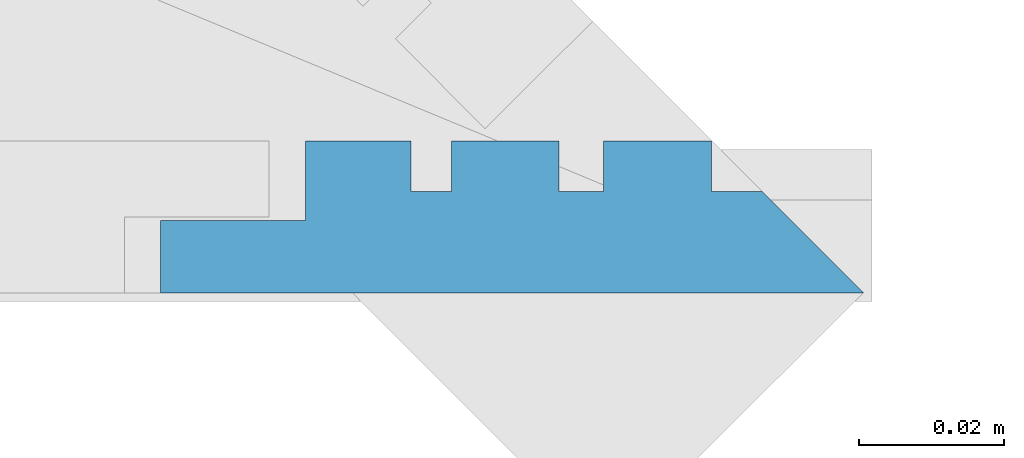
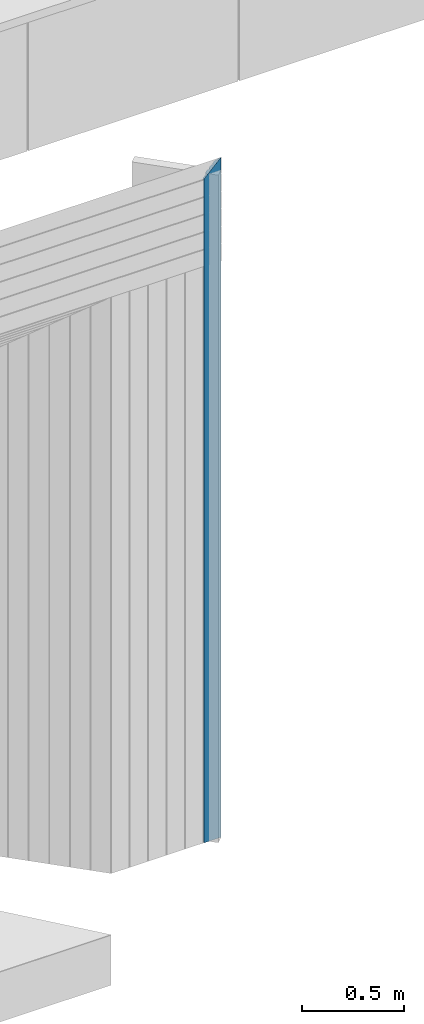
# One storey, part 106 of 418: 1 building element part, 1 element without a shape of its own.
"""IFC2X3 building model written with IfcOpenShell, lengths in millimetres."""

from ifc_helpers import new_model, entity, si_unit, converted_unit, derived_unit, money_unit, direction, frame, origin_with_axes, place, context, subcontext, project, spatial, polyline, outline, extrude, boolean, faceted_brep, material, type_object, element, aggregate, save


model = new_model("IFC2X3")

# Units and contexts
model_context = context("Model", 3, precision=0.01, world=origin_with_axes(), true_north=direction((0.0, 1.0)))
body_context = subcontext(model_context, "Body", "Model", "MODEL_VIEW")
ifc_project = project(units=[si_unit("LENGTHUNIT", "METRE", prefix="MILLI"), si_unit("AREAUNIT", "SQUARE_METRE"), si_unit("VOLUMEUNIT", "CUBIC_METRE"), converted_unit("PLANEANGLEUNIT", "DEGREE", entity("IfcPlaneAngleMeasure", 0.0174532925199), si_unit("PLANEANGLEUNIT", "RADIAN"), dimensions=[0, 0, 0, 0, 0, 0, 0]), si_unit("SOLIDANGLEUNIT", "STERADIAN"), money_unit("EUR"), converted_unit("TIMEUNIT", "Year", entity("IfcTimeMeasure", 31556926.0), si_unit("TIMEUNIT", "SECOND"), dimensions=[0, 0, 1, 0, 0, 0, 0]), si_unit("MASSUNIT", "GRAM", prefix="KILO"), si_unit("THERMODYNAMICTEMPERATUREUNIT", "DEGREE_CELSIUS"), si_unit("LUMINOUSINTENSITYUNIT", "LUMEN"), si_unit("ENERGYUNIT", "JOULE", prefix="MEGA"), derived_unit("THERMALCONDUCTANCEUNIT", [(si_unit("POWERUNIT", "WATT"), 1), (si_unit("LENGTHUNIT", "METRE"), -1), (si_unit("THERMODYNAMICTEMPERATUREUNIT", "KELVIN"), -1)]), derived_unit("SPECIFICHEATCAPACITYUNIT", [(si_unit("ENERGYUNIT", "JOULE"), 1), (si_unit("MASSUNIT", "GRAM", prefix="KILO"), -1), (si_unit("THERMODYNAMICTEMPERATUREUNIT", "KELVIN"), -1)]), derived_unit("MASSDENSITYUNIT", [(si_unit("MASSUNIT", "GRAM", prefix="KILO"), 1), (si_unit("VOLUMEUNIT", "CUBIC_METRE"), -1)])], contexts=[model_context])

# Site, building, storey
site_placement = place(None, origin_with_axes())
site = spatial("IfcSite", under=ifc_project, at=site_placement, Name="Paldiski mnt 245/1, Tallinn, Harjumaa", CompositionType="COMPLEX")
building_placement = place(site_placement, origin_with_axes())
building = spatial("IfcBuilding", under=site, at=building_placement, Name="RKAS Hoone üldnimetus (kasutust iseloomustav) -> IFC Project Manager -> SOLIBRI", CompositionType="ELEMENT")
storey_placement = place(building_placement, origin_with_axes())
storey = spatial("IfcBuildingStorey", under=building, at=storey_placement, Name="Esimene korrus", CompositionType="ELEMENT", Elevation=0.0)

# Proxy, building element part
building_element_proxy_type = type_object("IfcBuildingElementProxyType", Name="Laudis esiprofiil_01 21 x 622", PredefinedType="NOTDEFINED")
proxy_placement = place(storey_placement, frame((-37270.373884, -18705.5141429, 0.0), z_axis=(0.0, 0.0, 1.0), x_axis=(0.0, -1.0, 0.0)))
proxy = element("IfcBuildingElementProxy", 1, at=proxy_placement, inside=storey, type_object=building_element_proxy_type, Name="Varikatus")
ifc_material = material(Name="Laudis 5072 Honka 45 horisontaalne raastas")
building_element_part_placement = place(proxy_placement, origin_with_axes())
building_element_part = element("IfcBuildingElementPart", 2, at=building_element_part_placement, material=ifc_material, Name="Laudis 5072 Honka 45 horisontaalne raastas", context=body_context, shape_type="CSG", body=[
    boolean("DIFFERENCE", boolean("DIFFERENCE", boolean("DIFFERENCE", boolean("DIFFERENCE", boolean("DIFFERENCE", boolean("DIFFERENCE", extrude(outline(polyline([(-21.0000013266, -55.7545733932), (-14.0000008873, -55.7545748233), (-14.0000008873, -61.3952431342), (-21.0000013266, -61.3952431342), (-21.0000013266, -75.9714304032), (-10.0000014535, -75.9714304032), (-10.0000000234, -95.9714304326), (-1.43879088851e-06, -95.9714304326), (8.28322394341e-09, 1.13997680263), (-14.0000008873, -12.860024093), (-14.0000008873, -19.8600231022), (-20.9999998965, -19.8600231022), (-20.9999998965, -34.7991407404), (-14.0000008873, -34.7991393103), (-14.0000008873, -40.9260801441), (-20.9999998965, -40.9260801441), (-21.0000013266, -55.7545733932)])), origin_with_axes(), (0.0, 0.0, 1.0), 4086.15997799), faceted_brep([(-10.5000005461, -395.971429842, 3689.02857134), (-20.9999998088, -395.971430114, 3689.02857107), (-20.9999998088, -395.971430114, 4086.15997799), (-10.5000005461, -395.971429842, 4086.15997799), (-21.0000010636, -433.497524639, 3651.50247655), (-10.5000010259, -415.971430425, 3669.02857076), (3.20348192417e-08, -415.971430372, 3669.02857081), (-7.63172636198e-07, -515.971430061, 3569.02857112), (-10.0000002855, -515.971430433, 3569.02857075), (-10.000001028, -495.971430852, 3589.02857033), (-21.0000007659, -495.971429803, 3589.02857138), (-21.0000010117, -481.395242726, 3603.60475846), (-14.0000015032, -481.395242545, 3603.60475864), (-14.0000008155, -475.754574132, 3609.24542705), (-21.0000013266, -475.754573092, 3609.24542809), (-21.0000002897, -460.926080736, 3624.07392045), (-14.0000007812, -460.926080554, 3624.07392063), (-14.0000002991, -454.799139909, 3630.20086128), (-20.9999998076, -454.79914009, 3630.20086109), (-20.99999981, -439.860022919, 3645.13997827), (-14.0000003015, -439.860022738, 3645.13997845), (-14.0000005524, -433.497525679, 3651.50247551), (-21.0000010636, -433.497524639, 4086.15997799), (-7.63172636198e-07, -515.971430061, 4086.15997799), (3.20348192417e-08, -415.971430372, 4086.15997799), (-10.5000010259, -415.971430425, 4086.15997799), (-14.0000005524, -433.497525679, 4086.15997799), (-14.0000003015, -439.860022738, 4086.15997799), (-20.99999981, -439.860022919, 4086.15997799), (-20.9999998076, -454.79914009, 4086.15997799), (-14.0000002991, -454.799139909, 4086.15997799), (-14.0000007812, -460.926080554, 4086.15997799), (-21.0000002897, -460.926080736, 4086.15997799), (-21.0000013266, -475.754573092, 4086.15997799), (-14.0000008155, -475.754574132, 4086.15997799), (-14.0000015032, -481.395242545, 4086.15997799), (-21.0000010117, -481.395242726, 4086.15997799), (-21.0000007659, -495.971429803, 4086.15997799), (-10.000001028, -495.971430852, 4086.15997799), (-10.0000002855, -515.971430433, 4086.15997799)], [[[0, 1, 2, 3]], [[4, 1, 0, 5, 6, 7, 8, 9, 10, 11, 12, 13, 14, 15, 16, 17, 18, 19, 20, 21]], [[1, 4, 22, 2]], [[23, 24, 25, 3, 2, 22, 26, 27, 28, 29, 30, 31, 32, 33, 34, 35, 36, 37, 38, 39]], [[5, 0, 3, 25]], [[6, 5, 25, 24]], [[7, 6, 24, 23]], [[8, 7, 23, 39]], [[9, 8, 39, 38]], [[10, 9, 38, 37]], [[11, 10, 37, 36]], [[12, 11, 36, 35]], [[13, 12, 35, 34]], [[14, 13, 34, 33]], [[15, 14, 33, 32]], [[16, 15, 32, 31]], [[17, 16, 31, 30]], [[18, 17, 30, 29]], [[19, 18, 29, 28]], [[20, 19, 28, 27]], [[21, 20, 27, 26]], [[4, 21, 26, 22]]])), faceted_brep([(-10.5000005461, -500.971429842, 3584.02857134), (-20.9999998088, -500.971430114, 3584.02857107), (-20.9999998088, -500.971430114, 4086.15997799), (-10.5000005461, -500.971429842, 4086.15997799), (-21.0000010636, -538.497524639, 3546.50247655), (-10.5000010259, -520.971430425, 3564.02857076), (3.20348192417e-08, -520.971430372, 3564.02857081), (-7.63172636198e-07, -620.971430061, 3464.02857112), (-10.0000002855, -620.971430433, 3464.02857075), (-10.000001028, -600.971430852, 3484.02857033), (-21.0000007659, -600.971429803, 3484.02857138), (-21.0000010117, -586.395242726, 3498.60475846), (-14.0000015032, -586.395242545, 3498.60475864), (-14.0000008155, -580.754574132, 3504.24542705), (-21.0000013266, -580.754573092, 3504.24542809), (-21.0000002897, -565.926080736, 3519.07392045), (-14.0000007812, -565.926080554, 3519.07392063), (-14.0000002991, -559.799139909, 3525.20086128), (-20.9999998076, -559.79914009, 3525.20086109), (-20.99999981, -544.860022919, 3540.13997827), (-14.0000003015, -544.860022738, 3540.13997845), (-14.0000005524, -538.497525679, 3546.50247551), (-21.0000010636, -538.497524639, 4086.15997799), (-7.63172636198e-07, -620.971430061, 4086.15997799), (3.20348192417e-08, -520.971430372, 4086.15997799), (-10.5000010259, -520.971430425, 4086.15997799), (-14.0000005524, -538.497525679, 4086.15997799), (-14.0000003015, -544.860022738, 4086.15997799), (-20.99999981, -544.860022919, 4086.15997799), (-20.9999998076, -559.79914009, 4086.15997799), (-14.0000002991, -559.799139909, 4086.15997799), (-14.0000007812, -565.926080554, 4086.15997799), (-21.0000002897, -565.926080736, 4086.15997799), (-21.0000013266, -580.754573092, 4086.15997799), (-14.0000008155, -580.754574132, 4086.15997799), (-14.0000015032, -586.395242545, 4086.15997799), (-21.0000010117, -586.395242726, 4086.15997799), (-21.0000007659, -600.971429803, 4086.15997799), (-10.000001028, -600.971430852, 4086.15997799), (-10.0000002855, -620.971430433, 4086.15997799)], [[[0, 1, 2, 3]], [[4, 1, 0, 5, 6, 7, 8, 9, 10, 11, 12, 13, 14, 15, 16, 17, 18, 19, 20, 21]], [[1, 4, 22, 2]], [[23, 24, 25, 3, 2, 22, 26, 27, 28, 29, 30, 31, 32, 33, 34, 35, 36, 37, 38, 39]], [[5, 0, 3, 25]], [[6, 5, 25, 24]], [[7, 6, 24, 23]], [[8, 7, 23, 39]], [[9, 8, 39, 38]], [[10, 9, 38, 37]], [[11, 10, 37, 36]], [[12, 11, 36, 35]], [[13, 12, 35, 34]], [[14, 13, 34, 33]], [[15, 14, 33, 32]], [[16, 15, 32, 31]], [[17, 16, 31, 30]], [[18, 17, 30, 29]], [[19, 18, 29, 28]], [[20, 19, 28, 27]], [[21, 20, 27, 26]], [[4, 21, 26, 22]]])), faceted_brep([(-10.5000005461, -185.971429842, 3899.02857134), (-20.9999998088, -185.971430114, 3899.02857107), (-20.9999998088, -185.971430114, 4086.15997799), (-10.5000005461, -185.971429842, 4086.15997799), (-21.0000010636, -223.497524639, 3861.50247655), (-10.5000010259, -205.971430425, 3879.02857076), (3.20348192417e-08, -205.971430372, 3879.02857081), (-7.63172636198e-07, -305.971430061, 3779.02857112), (-10.0000002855, -305.971430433, 3779.02857075), (-10.000001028, -285.971430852, 3799.02857033), (-21.0000007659, -285.971429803, 3799.02857138), (-21.0000010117, -271.395242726, 3813.60475846), (-14.0000015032, -271.395242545, 3813.60475864), (-14.0000008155, -265.754574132, 3819.24542705), (-21.0000013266, -265.754573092, 3819.24542809), (-21.0000002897, -250.926080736, 3834.07392045), (-14.0000007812, -250.926080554, 3834.07392063), (-14.0000002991, -244.799139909, 3840.20086128), (-20.9999998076, -244.79914009, 3840.20086109), (-20.99999981, -229.860022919, 3855.13997827), (-14.0000003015, -229.860022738, 3855.13997845), (-14.0000005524, -223.497525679, 3861.50247551), (-21.0000010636, -223.497524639, 4086.15997799), (-7.63172636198e-07, -305.971430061, 4086.15997799), (3.20348192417e-08, -205.971430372, 4086.15997799), (-10.5000010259, -205.971430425, 4086.15997799), (-14.0000005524, -223.497525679, 4086.15997799), (-14.0000003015, -229.860022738, 4086.15997799), (-20.99999981, -229.860022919, 4086.15997799), (-20.9999998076, -244.79914009, 4086.15997799), (-14.0000002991, -244.799139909, 4086.15997799), (-14.0000007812, -250.926080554, 4086.15997799), (-21.0000002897, -250.926080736, 4086.15997799), (-21.0000013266, -265.754573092, 4086.15997799), (-14.0000008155, -265.754574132, 4086.15997799), (-14.0000015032, -271.395242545, 4086.15997799), (-21.0000010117, -271.395242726, 4086.15997799), (-21.0000007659, -285.971429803, 4086.15997799), (-10.000001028, -285.971430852, 4086.15997799), (-10.0000002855, -305.971430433, 4086.15997799)], [[[0, 1, 2, 3]], [[4, 1, 0, 5, 6, 7, 8, 9, 10, 11, 12, 13, 14, 15, 16, 17, 18, 19, 20, 21]], [[1, 4, 22, 2]], [[23, 24, 25, 3, 2, 22, 26, 27, 28, 29, 30, 31, 32, 33, 34, 35, 36, 37, 38, 39]], [[5, 0, 3, 25]], [[6, 5, 25, 24]], [[7, 6, 24, 23]], [[8, 7, 23, 39]], [[9, 8, 39, 38]], [[10, 9, 38, 37]], [[11, 10, 37, 36]], [[12, 11, 36, 35]], [[13, 12, 35, 34]], [[14, 13, 34, 33]], [[15, 14, 33, 32]], [[16, 15, 32, 31]], [[17, 16, 31, 30]], [[18, 17, 30, 29]], [[19, 18, 29, 28]], [[20, 19, 28, 27]], [[21, 20, 27, 26]], [[4, 21, 26, 22]]])), faceted_brep([(-10.5000005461, -290.971429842, 3794.02857134), (-20.9999998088, -290.971430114, 3794.02857107), (-20.9999998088, -290.971430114, 4086.15997799), (-10.5000005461, -290.971429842, 4086.15997799), (-21.0000010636, -328.497524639, 3756.50247655), (-10.5000010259, -310.971430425, 3774.02857076), (3.20348192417e-08, -310.971430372, 3774.02857081), (-7.63172636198e-07, -410.971430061, 3674.02857112), (-10.0000002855, -410.971430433, 3674.02857075), (-10.000001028, -390.971430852, 3694.02857033), (-21.0000007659, -390.971429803, 3694.02857138), (-21.0000010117, -376.395242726, 3708.60475846), (-14.0000015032, -376.395242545, 3708.60475864), (-14.0000008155, -370.754574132, 3714.24542705), (-21.0000013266, -370.754573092, 3714.24542809), (-21.0000002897, -355.926080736, 3729.07392045), (-14.0000007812, -355.926080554, 3729.07392063), (-14.0000002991, -349.799139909, 3735.20086128), (-20.9999998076, -349.79914009, 3735.20086109), (-20.99999981, -334.860022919, 3750.13997827), (-14.0000003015, -334.860022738, 3750.13997845), (-14.0000005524, -328.497525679, 3756.50247551), (-21.0000010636, -328.497524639, 4086.15997799), (-7.63172636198e-07, -410.971430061, 4086.15997799), (3.20348192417e-08, -310.971430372, 4086.15997799), (-10.5000010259, -310.971430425, 4086.15997799), (-14.0000005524, -328.497525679, 4086.15997799), (-14.0000003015, -334.860022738, 4086.15997799), (-20.99999981, -334.860022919, 4086.15997799), (-20.9999998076, -349.79914009, 4086.15997799), (-14.0000002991, -349.799139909, 4086.15997799), (-14.0000007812, -355.926080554, 4086.15997799), (-21.0000002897, -355.926080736, 4086.15997799), (-21.0000013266, -370.754573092, 4086.15997799), (-14.0000008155, -370.754574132, 4086.15997799), (-14.0000015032, -376.395242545, 4086.15997799), (-21.0000010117, -376.395242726, 4086.15997799), (-21.0000007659, -390.971429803, 4086.15997799), (-10.000001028, -390.971430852, 4086.15997799), (-10.0000002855, -410.971430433, 4086.15997799)], [[[0, 1, 2, 3]], [[4, 1, 0, 5, 6, 7, 8, 9, 10, 11, 12, 13, 14, 15, 16, 17, 18, 19, 20, 21]], [[1, 4, 22, 2]], [[23, 24, 25, 3, 2, 22, 26, 27, 28, 29, 30, 31, 32, 33, 34, 35, 36, 37, 38, 39]], [[5, 0, 3, 25]], [[6, 5, 25, 24]], [[7, 6, 24, 23]], [[8, 7, 23, 39]], [[9, 8, 39, 38]], [[10, 9, 38, 37]], [[11, 10, 37, 36]], [[12, 11, 36, 35]], [[13, 12, 35, 34]], [[14, 13, 34, 33]], [[15, 14, 33, 32]], [[16, 15, 32, 31]], [[17, 16, 31, 30]], [[18, 17, 30, 29]], [[19, 18, 29, 28]], [[20, 19, 28, 27]], [[21, 20, 27, 26]], [[4, 21, 26, 22]]])), faceted_brep([(-1.4387921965e-06, -95.9714304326, 3989.02857075), (8.28137558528e-09, 1.13997680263, 4086.13997799), (8.28137558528e-09, 1.13997680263, 4086.15997799), (-1.4387921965e-06, -95.9714304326, 4086.15997799), (-14.0000008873, -12.860024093, 4072.13997709), (-10.0000000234, -95.9714304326, 3989.02857075), (-10.0000014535, -75.9714304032, 4009.02857078), (-21.0000013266, -75.9714304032, 4009.02857078), (-21.0000013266, -61.3952431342, 4023.60475805), (-14.0000008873, -61.3952431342, 4023.60475805), (-14.0000008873, -55.7545748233, 4029.24542636), (-21.0000013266, -55.7545733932, 4029.24542779), (-20.9999998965, -40.9260801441, 4044.07392104), (-14.0000008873, -40.9260801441, 4044.07392104), (-14.0000008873, -34.7991393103, 4050.20086187), (-20.9999998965, -34.7991407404, 4050.20086044), (-20.9999998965, -19.8600231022, 4065.13997808), (-14.0000008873, -19.8600231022, 4065.13997808), (-14.0000008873, -12.860024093, 4086.15997799), (-20.9999998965, -40.9260801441, 4086.15997799), (-21.0000013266, -55.7545733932, 4086.15997799), (-14.0000008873, -55.7545748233, 4086.15997799), (-14.0000008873, -61.3952431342, 4086.15997799), (-21.0000013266, -61.3952431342, 4086.15997799), (-21.0000013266, -75.9714304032, 4086.15997799), (-10.0000014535, -75.9714304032, 4086.15997799), (-10.0000000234, -95.9714304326, 4086.15997799), (-14.0000008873, -19.8600231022, 4086.15997799), (-20.9999998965, -19.8600231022, 4086.15997799), (-20.9999998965, -34.7991407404, 4086.15997799), (-14.0000008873, -34.7991393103, 4086.15997799), (-14.0000008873, -40.9260801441, 4086.15997799)], [[[0, 1, 2, 3]], [[4, 1, 0, 5, 6, 7, 8, 9, 10, 11, 12, 13, 14, 15, 16, 17]], [[1, 4, 18, 2]], [[19, 20, 21, 22, 23, 24, 25, 26, 3, 2, 18, 27, 28, 29, 30, 31]], [[5, 0, 3, 26]], [[6, 5, 26, 25]], [[7, 6, 25, 24]], [[8, 7, 24, 23]], [[9, 8, 23, 22]], [[10, 9, 22, 21]], [[11, 10, 21, 20]], [[12, 11, 20, 19]], [[13, 12, 19, 31]], [[14, 13, 31, 30]], [[15, 14, 30, 29]], [[16, 15, 29, 28]], [[17, 16, 28, 27]], [[4, 17, 27, 18]]])), faceted_brep([(-10.5000005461, -80.9714298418, 4004.02857134), (-20.9999998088, -80.9714301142, 4004.02857107), (-20.9999998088, -80.9714301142, 4086.15997799), (-10.5000005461, -80.9714298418, 4086.15997799), (-21.0000010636, -118.497524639, 3966.50247655), (-10.5000010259, -100.971430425, 3984.02857076), (3.20348192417e-08, -100.971430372, 3984.02857081), (-7.63172636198e-07, -200.971430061, 3884.02857112), (-10.0000002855, -200.971430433, 3884.02857075), (-10.000001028, -180.971430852, 3904.02857033), (-21.0000007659, -180.971429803, 3904.02857138), (-21.0000010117, -166.395242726, 3918.60475846), (-14.0000015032, -166.395242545, 3918.60475864), (-14.0000008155, -160.754574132, 3924.24542705), (-21.0000013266, -160.754573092, 3924.24542809), (-21.0000002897, -145.926080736, 3939.07392045), (-14.0000007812, -145.926080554, 3939.07392063), (-14.0000002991, -139.799139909, 3945.20086128), (-20.9999998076, -139.79914009, 3945.20086109), (-20.99999981, -124.860022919, 3960.13997827), (-14.0000003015, -124.860022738, 3960.13997845), (-14.0000005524, -118.497525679, 3966.50247551), (-21.0000010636, -118.497524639, 4086.15997799), (-7.63172636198e-07, -200.971430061, 4086.15997799), (3.20348192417e-08, -100.971430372, 4086.15997799), (-10.5000010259, -100.971430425, 4086.15997799), (-14.0000005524, -118.497525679, 4086.15997799), (-14.0000003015, -124.860022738, 4086.15997799), (-20.99999981, -124.860022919, 4086.15997799), (-20.9999998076, -139.79914009, 4086.15997799), (-14.0000002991, -139.799139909, 4086.15997799), (-14.0000007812, -145.926080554, 4086.15997799), (-21.0000002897, -145.926080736, 4086.15997799), (-21.0000013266, -160.754573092, 4086.15997799), (-14.0000008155, -160.754574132, 4086.15997799), (-14.0000015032, -166.395242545, 4086.15997799), (-21.0000010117, -166.395242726, 4086.15997799), (-21.0000007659, -180.971429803, 4086.15997799), (-10.000001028, -180.971430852, 4086.15997799), (-10.0000002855, -200.971430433, 4086.15997799)], [[[0, 1, 2, 3]], [[4, 1, 0, 5, 6, 7, 8, 9, 10, 11, 12, 13, 14, 15, 16, 17, 18, 19, 20, 21]], [[1, 4, 22, 2]], [[23, 24, 25, 3, 2, 22, 26, 27, 28, 29, 30, 31, 32, 33, 34, 35, 36, 37, 38, 39]], [[5, 0, 3, 25]], [[6, 5, 25, 24]], [[7, 6, 24, 23]], [[8, 7, 23, 39]], [[9, 8, 39, 38]], [[10, 9, 38, 37]], [[11, 10, 37, 36]], [[12, 11, 36, 35]], [[13, 12, 35, 34]], [[14, 13, 34, 33]], [[15, 14, 33, 32]], [[16, 15, 32, 31]], [[17, 16, 31, 30]], [[18, 17, 30, 29]], [[19, 18, 29, 28]], [[20, 19, 28, 27]], [[21, 20, 27, 26]], [[4, 21, 26, 22]]])),
])
aggregate(proxy, [building_element_part])

save(model, "model.ifc")
